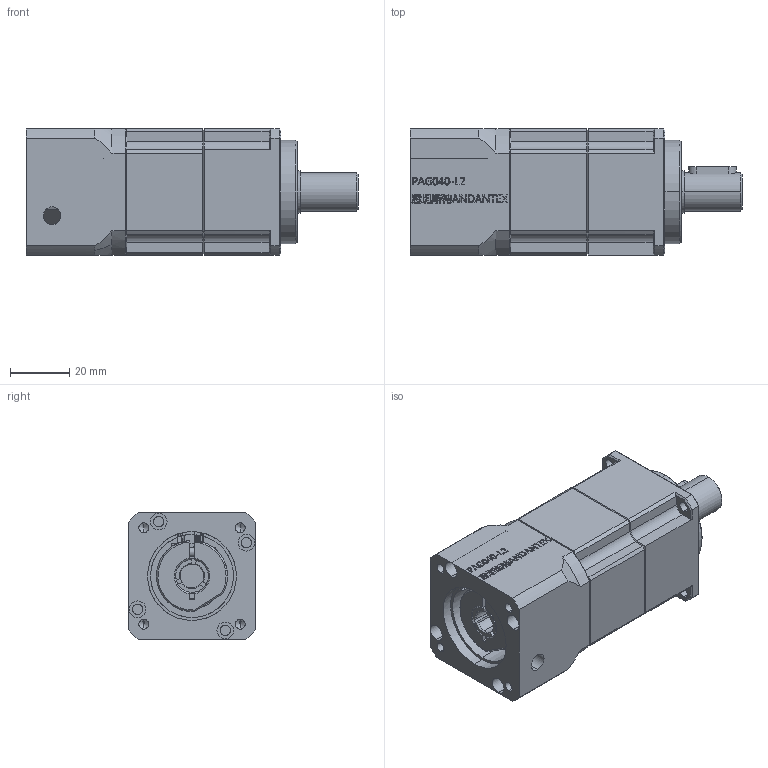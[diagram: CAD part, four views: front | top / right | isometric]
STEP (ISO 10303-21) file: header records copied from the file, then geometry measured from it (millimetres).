
FILE_DESCRIPTION (( 'STEP AP203' ), '1' );
FILE_NAME ('PAG040-L2塋拊佴杻ANDANTEX.STEP', '2021-04-12T15:01:56', ( 'Windows User' ), ( 'P R C' ), 'SwSTEP 2.0', 'SolidWorks 2016', '' );
FILE_SCHEMA (( 'CONFIG_CONTROL_DESIGN' ));
Length unit declared in the file: millimetre
Products named in the file (8): PAG040-L2塋拊佴杻ANDANTEX; PAG040-CQ01（本体齿圈)_PD42-CQ01+CQ02; PAG040-WZ01(帣釱)_1123_1; PAG040-CLZ05(喘謫粣)_1; PAG040-SJH(坶踡遠)_1; M3x12_1; 深沟球轴承61902-2Z_1; 5X5X16_1
Assembly tree (7 placements, depth 2):
  PAG040-L2塋拊佴杻ANDANTEX
    PAG040-CQ01（本体齿圈)_PD42-CQ01+CQ02
    PAG040-WZ01(帣釱)_1123_1
    PAG040-CLZ05(喘謫粣)_1
    PAG040-SJH(坶踡遠)_1
    M3x12_1
    深沟球轴承61902-2Z_1
    5X5X16_1
Bounding box: 112 x 42.6 x 42.6 mm (x, y, z)
Volume: 139120.1 mm3; surface area: 39237.5 mm2
Topology: 22 solids, 22 shells, 1214 faces, 3415 edges, 2245 vertices
Faces by surface type: plane 666, cylinder 188, bspline 165, sphere 85, cone 62, torus 48
Entity records: 48282 total; most frequent: CARTESIAN_POINT 17296, ORIENTED_EDGE 6810, DIRECTION 5516, EDGE_CURVE 3405, VERTEX_POINT 2245, AXIS2_PLACEMENT_3D 1872, LINE 1772, VECTOR 1772
